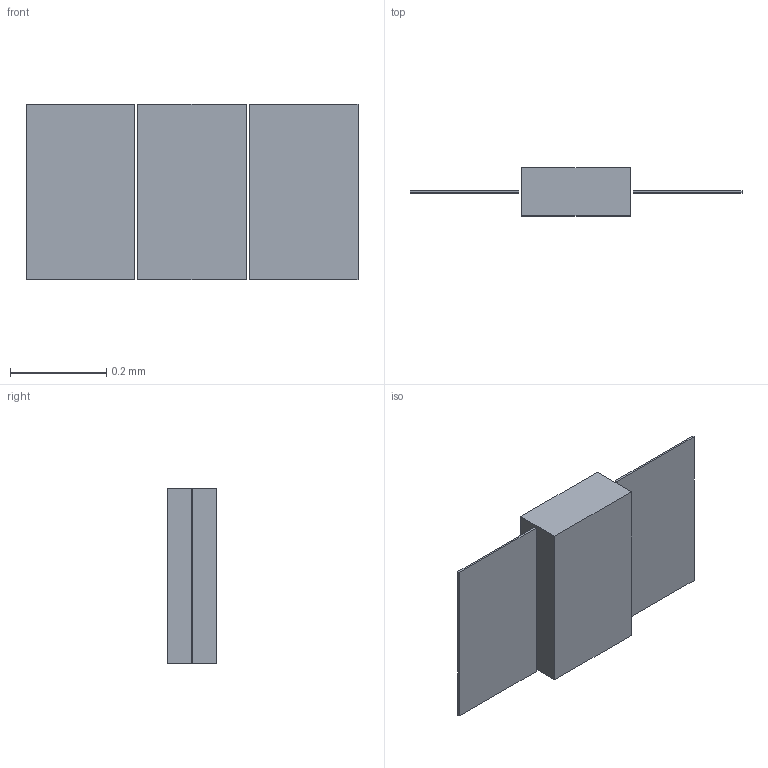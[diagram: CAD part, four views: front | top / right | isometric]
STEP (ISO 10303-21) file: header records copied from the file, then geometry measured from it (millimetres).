
FILE_DESCRIPTION(('Open CASCADE Model'),'2;1');
FILE_NAME('Open CASCADE Shape Model','2026-10-04T13:15:46',('Author'),( 'Open CASCADE'),'Open CASCADE STEP processor 7.9','Open CASCADE 7.9' ,'Unknown');
FILE_SCHEMA(('AUTOMOTIVE_DESIGN { 1 0 10303 214 1 1 1 1 }'));
Length unit declared in the file: millimetre
Products named in the file (4): SP-AMR-6U; 6U_structure; deployable_panel_-X; deployable_panel_+X
Assembly tree (3 placements, depth 2):
  SP-AMR-6U
    6U_structure
    deployable_panel_-X
    deployable_panel_+X
Bounding box: 0.69 x 0.1 x 0.37 mm (x, y, z)
Volume: 0 mm3; surface area: 0.6 mm2
Topology: 3 solids, 3 shells, 18 faces, 36 edges, 24 vertices
Faces by surface type: plane 18
Entity records: 1014 total; most frequent: CARTESIAN_POINT 154, DIRECTION 152, LINE 108, VECTOR 108, ORIENTED_EDGE 72, PCURVE 72, DEFINITIONAL_REPRESENTATION 72, EDGE_CURVE 36
